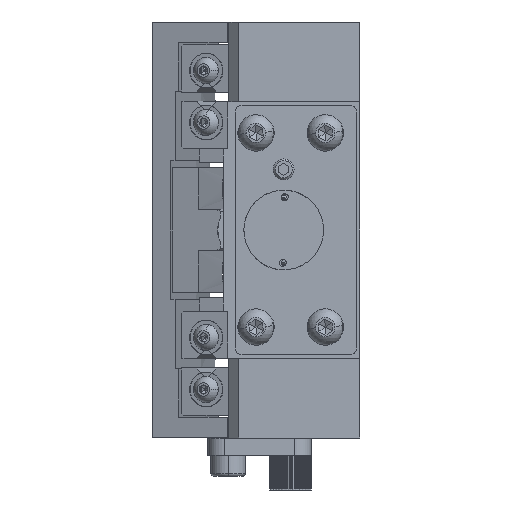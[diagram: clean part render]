
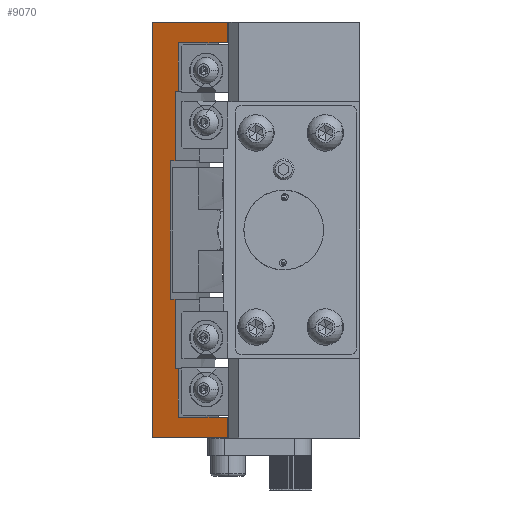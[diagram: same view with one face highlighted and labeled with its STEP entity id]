
A CAD part, left-side view. The second image highlights one B-rep face of the part: STEP entity #9070.
In plain terms, the highlighted planar face has unit normal (-0.94, 0.342, 0).
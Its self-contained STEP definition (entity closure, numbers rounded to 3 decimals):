
#98 = CARTESIAN_POINT ( 'NONE',  ( -65., 36., 60. ) ) ;
#401 = VECTOR ( 'NONE', #34274, 1000. ) ;
#498 = VERTEX_POINT ( 'NONE', #37619 ) ;
#621 = CARTESIAN_POINT ( 'NONE',  ( -65., 36., -60. ) ) ;
#680 = DIRECTION ( 'NONE',  ( 0., 0., 1. ) ) ;
#1364 = CARTESIAN_POINT ( 'NONE',  ( -72.909, 14.271, -60. ) ) ;
#1620 = CARTESIAN_POINT ( 'NONE',  ( -67.778, 28.366, 54. ) ) ;
#2177 = CARTESIAN_POINT ( 'NONE',  ( -65., 36., -54. ) ) ;
#2216 = CARTESIAN_POINT ( 'NONE',  ( -66.923, 30.716, -20. ) ) ;
#2568 = EDGE_CURVE ( 'NONE', #9827, #23894, #20647, .T. ) ;
#2881 = DIRECTION ( 'NONE',  ( -0.342, -0.94, 0. ) ) ;
#2932 = CARTESIAN_POINT ( 'NONE',  ( -65., 36., -20. ) ) ;
#3163 = ORIENTED_EDGE ( 'NONE', *, *, #33766, .T. ) ;
#3167 = CARTESIAN_POINT ( 'NONE',  ( -72.909, 14.271, 60. ) ) ;
#3695 = CARTESIAN_POINT ( 'NONE',  ( -72.909, 14.271, 60. ) ) ;
#3890 = EDGE_LOOP ( 'NONE', ( #38275, #13795, #38575, #7341, #36148, #5524, #34219, #3163, #25116, #14428, #37699, #36167, #4375, #21472, #22183, #6285 ) ) ;
#4193 = VERTEX_POINT ( 'NONE', #23170 ) ;
#4306 = VECTOR ( 'NONE', #20349, 1000. ) ;
#4328 = CARTESIAN_POINT ( 'NONE',  ( -67.436, 29.306, -40. ) ) ;
#4375 = ORIENTED_EDGE ( 'NONE', *, *, #23740, .F. ) ;
#5411 = EDGE_CURVE ( 'NONE', #16130, #17983, #27252, .T. ) ;
#5436 = DIRECTION ( 'NONE',  ( 0., 0., -1. ) ) ;
#5524 = ORIENTED_EDGE ( 'NONE', *, *, #22705, .F. ) ;
#5756 = LINE ( 'NONE', #12732, #10925 ) ;
#5760 = VERTEX_POINT ( 'NONE', #33618 ) ;
#5976 = DIRECTION ( 'NONE',  ( 0., 0., -1. ) ) ;
#6285 = ORIENTED_EDGE ( 'NONE', *, *, #13278, .T. ) ;
#6325 = CARTESIAN_POINT ( 'NONE',  ( -67.778, 28.366, -40. ) ) ;
#6489 = LINE ( 'NONE', #26379, #21445 ) ;
#6777 = LINE ( 'NONE', #3695, #13781 ) ;
#6986 = CARTESIAN_POINT ( 'NONE',  ( -67.436, 29.306, -40. ) ) ;
#7341 = ORIENTED_EDGE ( 'NONE', *, *, #15540, .F. ) ;
#7441 = LINE ( 'NONE', #2177, #38324 ) ;
#7675 = DIRECTION ( 'NONE',  ( 0., 0., -1. ) ) ;
#8773 = LINE ( 'NONE', #19192, #30775 ) ;
#8950 = LINE ( 'NONE', #33814, #31855 ) ;
#9070 = ADVANCED_FACE ( 'NONE', ( #36801 ), #15155, .F. ) ;
#9827 = VERTEX_POINT ( 'NONE', #10648 ) ;
#9915 = VECTOR ( 'NONE', #22086, 1000. ) ;
#10635 = VERTEX_POINT ( 'NONE', #15364 ) ;
#10648 = CARTESIAN_POINT ( 'NONE',  ( -66.923, 30.716, 20. ) ) ;
#10667 = CARTESIAN_POINT ( 'NONE',  ( -67.778, 28.366, 40. ) ) ;
#10925 = VECTOR ( 'NONE', #680, 1000. ) ;
#11067 = CARTESIAN_POINT ( 'NONE',  ( -72.909, 14.271, 54. ) ) ;
#11207 = LINE ( 'NONE', #621, #34152 ) ;
#11429 = LINE ( 'NONE', #32940, #24519 ) ;
#12059 = EDGE_CURVE ( 'NONE', #498, #13277, #17827, .T. ) ;
#12069 = EDGE_CURVE ( 'NONE', #31522, #10635, #24873, .T. ) ;
#12732 = CARTESIAN_POINT ( 'NONE',  ( -67.778, 28.366, 54. ) ) ;
#12799 = DIRECTION ( 'NONE',  ( -0.342, -0.94, 0. ) ) ;
#13277 = VERTEX_POINT ( 'NONE', #27737 ) ;
#13278 = EDGE_CURVE ( 'NONE', #13277, #16072, #11207, .T. ) ;
#13316 = CARTESIAN_POINT ( 'NONE',  ( -66.923, 30.716, -20. ) ) ;
#13387 = EDGE_CURVE ( 'NONE', #498, #38113, #24286, .T. ) ;
#13781 = VECTOR ( 'NONE', #24616, 1000. ) ;
#13795 = ORIENTED_EDGE ( 'NONE', *, *, #22120, .T. ) ;
#14428 = ORIENTED_EDGE ( 'NONE', *, *, #34518, .T. ) ;
#15155 = PLANE ( 'NONE',  #28565 ) ;
#15364 = CARTESIAN_POINT ( 'NONE',  ( -67.436, 29.306, 20. ) ) ;
#15540 = EDGE_CURVE ( 'NONE', #21305, #25823, #8773, .T. ) ;
#15660 = EDGE_CURVE ( 'NONE', #25823, #30413, #19973, .T. ) ;
#16072 = VERTEX_POINT ( 'NONE', #1364 ) ;
#16130 = VERTEX_POINT ( 'NONE', #1620 ) ;
#17607 = EDGE_CURVE ( 'NONE', #4193, #21305, #11429, .T. ) ;
#17827 = LINE ( 'NONE', #37029, #9915 ) ;
#17983 = VERTEX_POINT ( 'NONE', #11067 ) ;
#18133 = DIRECTION ( 'NONE',  ( 0.342, 0.94, 0. ) ) ;
#18323 = EDGE_CURVE ( 'NONE', #37848, #16130, #5756, .T. ) ;
#19192 = CARTESIAN_POINT ( 'NONE',  ( -65., 36., -40. ) ) ;
#19705 = VECTOR ( 'NONE', #5976, 1000. ) ;
#19960 = CARTESIAN_POINT ( 'NONE',  ( -65., 36., 54. ) ) ;
#19973 = LINE ( 'NONE', #25619, #35899 ) ;
#20349 = DIRECTION ( 'NONE',  ( -0.342, -0.94, 0. ) ) ;
#20647 = LINE ( 'NONE', #13316, #19705 ) ;
#20786 = CARTESIAN_POINT ( 'NONE',  ( -65., 36., 20. ) ) ;
#20865 = LINE ( 'NONE', #2932, #28859 ) ;
#21305 = VERTEX_POINT ( 'NONE', #6986 ) ;
#21445 = VECTOR ( 'NONE', #5436, 1000. ) ;
#21472 = ORIENTED_EDGE ( 'NONE', *, *, #13387, .F. ) ;
#22086 = DIRECTION ( 'NONE',  ( 0., 0., -1. ) ) ;
#22120 = EDGE_CURVE ( 'NONE', #5760, #30413, #7441, .T. ) ;
#22183 = ORIENTED_EDGE ( 'NONE', *, *, #12059, .T. ) ;
#22705 = EDGE_CURVE ( 'NONE', #23894, #4193, #20865, .T. ) ;
#23170 = CARTESIAN_POINT ( 'NONE',  ( -67.436, 29.306, -20. ) ) ;
#23506 = CARTESIAN_POINT ( 'NONE',  ( -67.778, 28.366, -54. ) ) ;
#23687 = VECTOR ( 'NONE', #2881, 1000. ) ;
#23740 = EDGE_CURVE ( 'NONE', #38113, #17983, #6777, .T. ) ;
#23894 = VERTEX_POINT ( 'NONE', #2216 ) ;
#24286 = LINE ( 'NONE', #31250, #401 ) ;
#24519 = VECTOR ( 'NONE', #29934, 1000. ) ;
#24616 = DIRECTION ( 'NONE',  ( 0., 0., -1. ) ) ;
#24873 = LINE ( 'NONE', #4328, #32837 ) ;
#25116 = ORIENTED_EDGE ( 'NONE', *, *, #12069, .F. ) ;
#25286 = DIRECTION ( 'NONE',  ( 0., 0., -1. ) ) ;
#25426 = CARTESIAN_POINT ( 'NONE',  ( -67.436, 29.306, 40. ) ) ;
#25619 = CARTESIAN_POINT ( 'NONE',  ( -67.778, 28.366, -54. ) ) ;
#25823 = VERTEX_POINT ( 'NONE', #6325 ) ;
#26379 = CARTESIAN_POINT ( 'NONE',  ( -72.909, 14.271, 60. ) ) ;
#27252 = LINE ( 'NONE', #19960, #4306 ) ;
#27737 = CARTESIAN_POINT ( 'NONE',  ( -65., 36., -60. ) ) ;
#28565 = AXIS2_PLACEMENT_3D ( 'NONE', #98, #36086, #18133 ) ;
#28859 = VECTOR ( 'NONE', #35770, 1000. ) ;
#29934 = DIRECTION ( 'NONE',  ( 0., 0., -1. ) ) ;
#30413 = VERTEX_POINT ( 'NONE', #23506 ) ;
#30666 = DIRECTION ( 'NONE',  ( -0.342, -0.94, 0. ) ) ;
#30775 = VECTOR ( 'NONE', #34133, 1000. ) ;
#31250 = CARTESIAN_POINT ( 'NONE',  ( -65., 36., 60. ) ) ;
#31522 = VERTEX_POINT ( 'NONE', #25426 ) ;
#31855 = VECTOR ( 'NONE', #30666, 1000. ) ;
#32387 = EDGE_CURVE ( 'NONE', #5760, #16072, #6489, .T. ) ;
#32837 = VECTOR ( 'NONE', #25286, 1000. ) ;
#32940 = CARTESIAN_POINT ( 'NONE',  ( -67.436, 29.306, -40. ) ) ;
#33618 = CARTESIAN_POINT ( 'NONE',  ( -72.909, 14.271, -54. ) ) ;
#33766 = EDGE_CURVE ( 'NONE', #9827, #10635, #37753, .T. ) ;
#33814 = CARTESIAN_POINT ( 'NONE',  ( -65., 36., 40. ) ) ;
#34133 = DIRECTION ( 'NONE',  ( -0.342, -0.94, 0. ) ) ;
#34152 = VECTOR ( 'NONE', #12799, 1000. ) ;
#34219 = ORIENTED_EDGE ( 'NONE', *, *, #2568, .F. ) ;
#34274 = DIRECTION ( 'NONE',  ( -0.342, -0.94, 0. ) ) ;
#34518 = EDGE_CURVE ( 'NONE', #31522, #37848, #8950, .T. ) ;
#35169 = DIRECTION ( 'NONE',  ( 0.342, 0.94, 0. ) ) ;
#35770 = DIRECTION ( 'NONE',  ( -0.342, -0.94, 0. ) ) ;
#35899 = VECTOR ( 'NONE', #7675, 1000. ) ;
#36086 = DIRECTION ( 'NONE',  ( 0.94, -0.342, 0. ) ) ;
#36148 = ORIENTED_EDGE ( 'NONE', *, *, #17607, .F. ) ;
#36167 = ORIENTED_EDGE ( 'NONE', *, *, #5411, .T. ) ;
#36801 = FACE_OUTER_BOUND ( 'NONE', #3890, .T. ) ;
#37029 = CARTESIAN_POINT ( 'NONE',  ( -65., 36., 60. ) ) ;
#37619 = CARTESIAN_POINT ( 'NONE',  ( -65., 36., 60. ) ) ;
#37699 = ORIENTED_EDGE ( 'NONE', *, *, #18323, .T. ) ;
#37753 = LINE ( 'NONE', #20786, #23687 ) ;
#37848 = VERTEX_POINT ( 'NONE', #10667 ) ;
#38113 = VERTEX_POINT ( 'NONE', #3167 ) ;
#38275 = ORIENTED_EDGE ( 'NONE', *, *, #32387, .F. ) ;
#38324 = VECTOR ( 'NONE', #35169, 1000. ) ;
#38575 = ORIENTED_EDGE ( 'NONE', *, *, #15660, .F. ) ;
